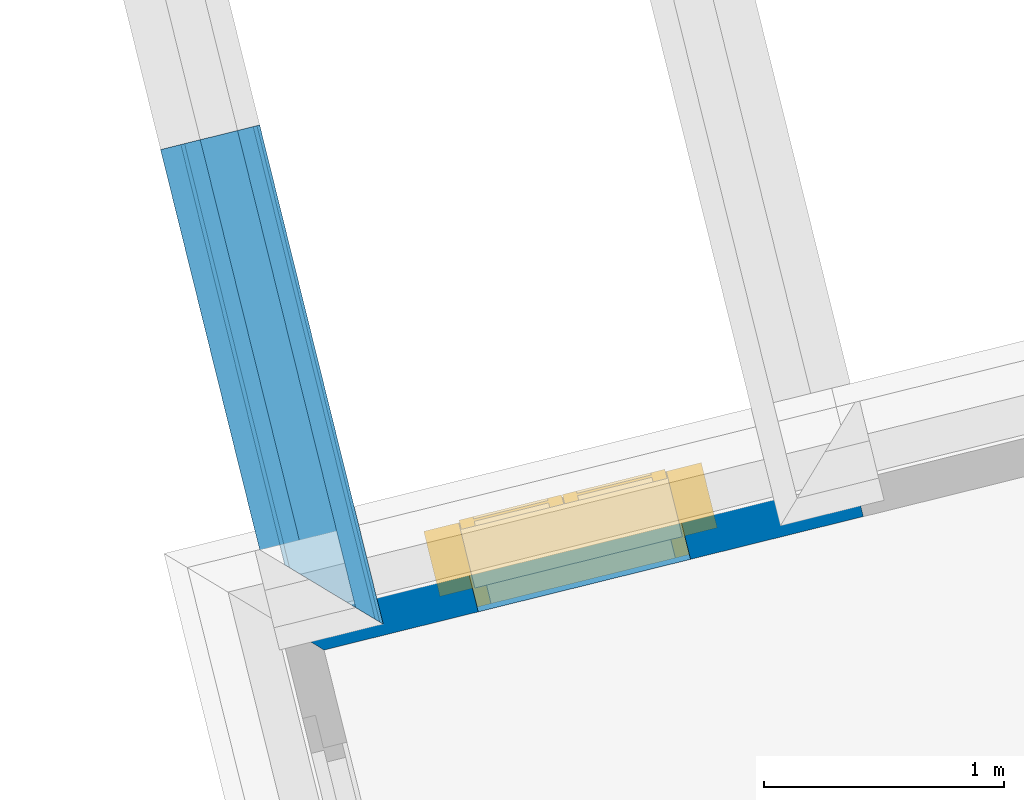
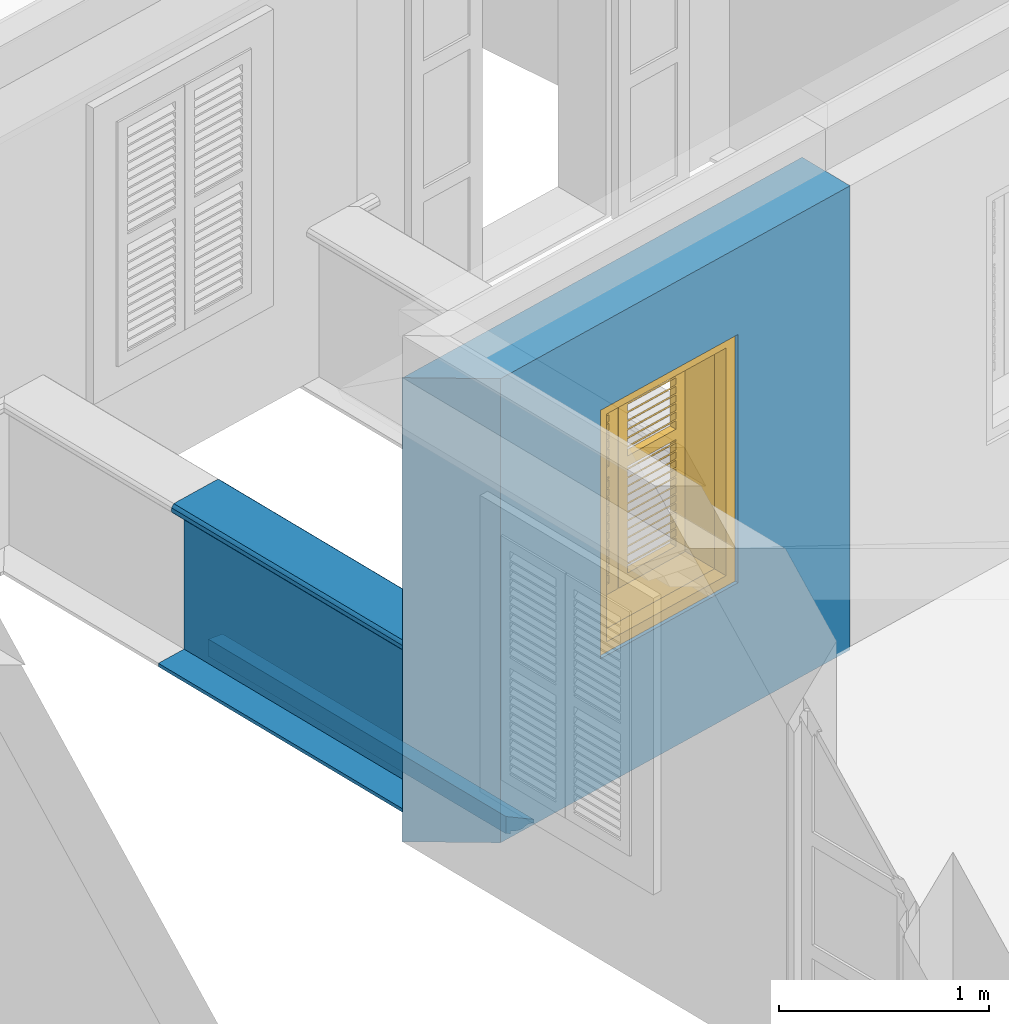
# One storey, part 4 of 15: 4 walls, 1 window, 1 opening.
"""IFC4 building model written with IfcOpenShell, lengths in metres."""

from ifc_helpers import new_model, si_unit, frame, origin, origin_with_axes, place, context, subcontext, project, spatial, polyline, outline, extrude, clip, halfspace, faceted_brep, source, transform, mapped, material, layer, layer_set, layer_usage, material_profile, profile_set, profile_usage, type_object, type_shapes, element, fill, save


model = new_model("IFC4")

# Units and contexts
model_context = context("Model", 3, world=origin_with_axes())
body_context = subcontext(model_context, "Body", "Model", "MODEL_VIEW")
ifc_project = project(units=[si_unit("PLANEANGLEUNIT", "RADIAN"), si_unit("MASSUNIT", "GRAM", prefix="KILO"), si_unit("FORCEUNIT", "NEWTON", prefix="KILO"), si_unit("LENGTHUNIT", "METRE"), si_unit("AREAUNIT", "SQUARE_METRE"), si_unit("VOLUMEUNIT", "CUBIC_METRE")], contexts=[model_context, model_context])

# Site, building, storey
site_placement = place(None, origin_with_axes())
site = spatial("IfcSite", under=ifc_project, at=site_placement, Name="Site plot-5", CompositionType="ELEMENT")
building_placement = place(None, origin_with_axes())
building = spatial("IfcBuilding", under=site, at=building_placement, Name="Building plot-5", CompositionType="ELEMENT")
storey_placement = place(None, frame((0.0, 0.0, 3.45), z_axis=(0.0, 0.0, 1.0), x_axis=(1.0, 0.0, 0.0)))
storey = spatial("IfcBuildingStorey", under=building, at=storey_placement, Name="plot-5 1", CompositionType="ELEMENT", Elevation=3.45)

# Wall, opening, window
ifc_material = material(Name="Masonry")
ifc_layer = layer(ifc_material, 0.33, ventilated=False)
ifc_layer_set = layer_set([ifc_layer], Name="exterior_0.08_0.25")
ifc_layer_usage = layer_usage(ifc_layer_set, "AXIS2", "POSITIVE", -0.25)
wall_type_1 = type_object("IfcWallType", Name="exterior_0.08_0.25", PredefinedType="SOLIDWALL", material=ifc_layer_set)
wall_1_placement = place(storey_placement, frame((21.3160786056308, 24.5601392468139, 0.0), z_axis=(0.0, 0.0, 1.0), x_axis=(-0.970711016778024, -0.240250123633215, 0.0)))
wall_1 = element("IfcWall", 1, at=wall_1_placement, inside=storey, type_object=wall_type_1, material=ifc_layer_usage, Name="exterior", context=body_context, shape_type="SweptSolid", body=[
    extrude(outline(polyline([(-2.14632396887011e-15, 0.0800000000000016), (8.11993616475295e-15, -0.249999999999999), (2.64219145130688, -0.249999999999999), (2.31219145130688, 0.0799999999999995), (-2.14632396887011e-15, 0.0800000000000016)])), origin_with_axes(), (0.0, 0.0, 1.0), 2.7),
])
opening_placement = place(wall_1_placement, frame((0.741095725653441, 0.0, 0.75)))
opening = element("IfcOpeningElement", 2, at=opening_placement, cuts=wall_1, Name="My Opening", ObjectType="Opening", context=body_context, shape_type="SweptSolid", body=[
    extrude(outline(polyline([(0.0, -0.269999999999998), (0.91, -0.269999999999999), (0.909999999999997, 1.1), (-3.33066907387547e-15, 1.1), (0.0, -0.269999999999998)])), origin_with_axes(), (0.0, 0.0, 1.0), 1.445),
])
window_type = type_object("IfcWindowType", Name="shuttered_shorter", PartitioningType="DOUBLE_PANEL_HORIZONTAL", PredefinedType="NOTDEFINED")
shared_shape = source(origin(), body_context, "Body", "Brep", [
    faceted_brep([(0.393, 0.0, 0.622), (0.074, 0.0, 0.622), (0.074, 0.0, 0.632), (0.393, 0.0, 0.632), (0.074, -0.04, 0.592), (0.393, -0.04, 0.592), (0.393, -0.04, 0.582), (0.074, -0.04, 0.582), (0.517, 0.0, 0.682), (0.836, 0.0, 0.682), (0.836, 0.0, 0.672), (0.517, 0.0, 0.672), (0.517, -0.04, 0.642), (0.836, -0.04, 0.642), (0.836, -0.04, 0.632), (0.517, -0.04, 0.632), (0.517, 0.0, 0.632), (0.836, 0.0, 0.632), (0.836, 0.0, 0.622), (0.517, 0.0, 0.622), (0.517, -0.04, 0.592), (0.836, -0.04, 0.592), (0.836, -0.04, 0.582), (0.517, -0.04, 0.582), (0.517, 0.0, 0.232), (0.836, 0.0, 0.232), (0.836, 0.0, 0.222), (0.517, 0.0, 0.222), (0.517, -0.04, 0.192), (0.836, -0.04, 0.192), (0.836, -0.04, 0.182), (0.517, -0.04, 0.182), (0.517, 0.0, 0.532), (0.836, 0.0, 0.532), (0.836, 0.0, 0.522), (0.517, 0.0, 0.522), (0.517, -0.04, 0.492), (0.836, -0.04, 0.492), (0.836, -0.04, 0.482), (0.517, -0.04, 0.482), (0.517, 0.0, 0.482), (0.836, 0.0, 0.482), (0.836, 0.0, 0.472), (0.517, 0.0, 0.472), (0.517, -0.04, 0.442), (0.836, -0.04, 0.442), (0.836, -0.04, 0.432), (0.517, -0.04, 0.432), (0.517, 0.0, 0.582), (0.836, 0.0, 0.582), (0.836, 0.0, 0.572), (0.517, 0.0, 0.572), (0.517, -0.04, 0.542), (0.836, -0.04, 0.542), (0.836, -0.04, 0.532), (0.517, -0.04, 0.532), (0.517, 0.0, 0.182), (0.836, 0.0, 0.182), (0.836, 0.0, 0.172), (0.517, 0.0, 0.172), (0.517, -0.04, 0.142), (0.836, -0.04, 0.142), (0.836, -0.04, 0.132), (0.517, -0.04, 0.132), (0.517, 0.0, 0.382), (0.836, 0.0, 0.382), (0.836, 0.0, 0.372), (0.517, 0.0, 0.372), (0.517, -0.04, 0.342), (0.836, -0.04, 0.342), (0.836, -0.04, 0.332), (0.517, -0.04, 0.332), (0.517, 0.0, 0.432), (0.836, 0.0, 0.432), (0.836, 0.0, 0.422), (0.517, 0.0, 0.422), (0.517, -0.04, 0.392), (0.836, -0.04, 0.392), (0.836, -0.04, 0.382), (0.517, -0.04, 0.382), (0.517, 0.0, 0.132), (0.836, 0.0, 0.132), (0.836, 0.0, 0.122), (0.517, 0.0, 0.122), (0.517, -0.04, 0.092), (0.836, -0.04, 0.092), (0.836, -0.04, 0.082), (0.517, -0.04, 0.082), (0.517, 0.0, 0.282), (0.836, 0.0, 0.282), (0.836, 0.0, 0.272), (0.517, 0.0, 0.272), (0.517, -0.04, 0.242), (0.836, -0.04, 0.242), (0.836, -0.04, 0.232), (0.517, -0.04, 0.232), (0.517, 0.0, 0.332), (0.836, 0.0, 0.332), (0.836, 0.0, 0.322), (0.517, 0.0, 0.322), (0.517, -0.04, 0.292), (0.836, -0.04, 0.292), (0.836, -0.04, 0.282), (0.517, -0.04, 0.282), (0.517, 0.0, 1.362667), (0.836, 0.0, 1.362667), (0.836, 0.0, 1.352667), (0.517, 0.0, 1.352667), (0.517, -0.04, 1.322667), (0.836, -0.04, 1.322667), (0.836, -0.04, 1.312667), (0.517, -0.04, 1.312667), (0.517, 0.0, 1.312667), (0.836, 0.0, 1.312667), (0.836, 0.0, 1.302667), (0.517, 0.0, 1.302667), (0.517, -0.04, 1.272667), (0.836, -0.04, 1.272667), (0.836, -0.04, 1.262667), (0.517, -0.04, 1.262667), (0.517, 0.0, 0.912667), (0.836, 0.0, 0.912667), (0.836, 0.0, 0.902667), (0.517, 0.0, 0.902667), (0.517, -0.04, 0.872667), (0.836, -0.04, 0.872667), (0.836, -0.04, 0.862667), (0.517, -0.04, 0.862667), (0.517, 0.0, 1.212667), (0.836, 0.0, 1.212667), (0.836, 0.0, 1.202667), (0.517, 0.0, 1.202667), (0.517, -0.04, 1.172667), (0.836, -0.04, 1.172667), (0.836, -0.04, 1.162667), (0.517, -0.04, 1.162667), (0.517, 0.0, 1.162667), (0.836, 0.0, 1.162667), (0.836, 0.0, 1.152667), (0.517, 0.0, 1.152667), (0.517, -0.04, 1.122667), (0.836, -0.04, 1.122667), (0.836, -0.04, 1.112667), (0.517, -0.04, 1.112667), (0.517, 0.0, 1.262667), (0.836, 0.0, 1.262667), (0.836, 0.0, 1.252667), (0.517, 0.0, 1.252667), (0.517, -0.04, 1.222667), (0.836, -0.04, 1.222667), (0.836, -0.04, 1.212667), (0.517, -0.04, 1.212667), (0.517, 0.0, 0.862667), (0.836, 0.0, 0.862667), (0.836, 0.0, 0.852667), (0.517, 0.0, 0.852667), (0.517, -0.04, 0.822667), (0.836, -0.04, 0.822667), (0.836, -0.04, 0.812667), (0.517, -0.04, 0.812667), (0.517, 0.0, 1.062667), (0.836, 0.0, 1.062667), (0.836, 0.0, 1.052667), (0.517, 0.0, 1.052667), (0.517, -0.04, 1.022667), (0.836, -0.04, 1.022667), (0.836, -0.04, 1.012667), (0.517, -0.04, 1.012667), (0.517, 0.0, 1.112667), (0.836, 0.0, 1.112667), (0.836, 0.0, 1.102667), (0.517, 0.0, 1.102667), (0.517, -0.04, 1.072667), (0.836, -0.04, 1.072667), (0.836, -0.04, 1.062667), (0.517, -0.04, 1.062667), (0.517, 0.0, 0.812667), (0.836, 0.0, 0.812667), (0.836, 0.0, 0.802667), (0.517, 0.0, 0.802667), (0.517, -0.04, 0.772667), (0.836, -0.04, 0.772667), (0.836, -0.04, 0.762667), (0.517, -0.04, 0.762667), (0.517, 0.0, 0.962667), (0.836, 0.0, 0.962667), (0.836, 0.0, 0.952667), (0.517, 0.0, 0.952667), (0.517, -0.04, 0.922667), (0.836, -0.04, 0.922667), (0.836, -0.04, 0.912667), (0.517, -0.04, 0.912667), (0.517, 0.0, 1.012667), (0.836, 0.0, 1.012667), (0.836, 0.0, 1.002667), (0.517, 0.0, 1.002667), (0.517, -0.04, 0.972667), (0.836, -0.04, 0.972667), (0.836, -0.04, 0.962667), (0.517, -0.04, 0.962667), (0.074, 0.0, 0.682), (0.393, 0.0, 0.682), (0.393, 0.0, 0.672), (0.074, 0.0, 0.672), (0.074, -0.04, 0.642), (0.393, -0.04, 0.642), (0.393, -0.04, 0.632), (0.074, -0.04, 0.632), (0.074, 0.0, 0.232), (0.393, 0.0, 0.232), (0.393, 0.0, 0.222), (0.074, 0.0, 0.222), (0.074, -0.04, 0.192), (0.393, -0.04, 0.192), (0.393, -0.04, 0.182), (0.074, -0.04, 0.182), (0.074, 0.0, 0.532), (0.393, 0.0, 0.532), (0.393, 0.0, 0.522), (0.074, 0.0, 0.522), (0.074, -0.04, 0.492), (0.393, -0.04, 0.492), (0.393, -0.04, 0.482), (0.074, -0.04, 0.482), (0.074, 0.0, 0.482), (0.393, 0.0, 0.482), (0.393, 0.0, 0.472), (0.074, 0.0, 0.472), (0.074, -0.04, 0.442), (0.393, -0.04, 0.442), (0.393, -0.04, 0.432), (0.074, -0.04, 0.432), (0.074, 0.0, 0.582), (0.393, 0.0, 0.582), (0.393, 0.0, 0.572), (0.074, 0.0, 0.572), (0.074, -0.04, 0.542), (0.393, -0.04, 0.542), (0.393, -0.04, 0.532), (0.074, -0.04, 0.532), (0.074, 0.0, 0.182), (0.393, 0.0, 0.182), (0.393, 0.0, 0.172), (0.074, 0.0, 0.172), (0.074, -0.04, 0.142), (0.393, -0.04, 0.142), (0.393, -0.04, 0.132), (0.074, -0.04, 0.132), (0.074, 0.0, 0.382), (0.393, 0.0, 0.382), (0.393, 0.0, 0.372), (0.074, 0.0, 0.372), (0.074, -0.04, 0.342), (0.393, -0.04, 0.342), (0.393, -0.04, 0.332), (0.074, -0.04, 0.332), (0.074, 0.0, 0.432), (0.393, 0.0, 0.432), (0.393, 0.0, 0.422), (0.074, 0.0, 0.422), (0.074, -0.04, 0.392), (0.393, -0.04, 0.392), (0.393, -0.04, 0.382), (0.074, -0.04, 0.382), (0.074, 0.0, 0.132), (0.393, 0.0, 0.132), (0.393, 0.0, 0.122), (0.074, 0.0, 0.122), (0.074, -0.04, 0.092), (0.393, -0.04, 0.092), (0.393, -0.04, 0.082), (0.074, -0.04, 0.082), (0.074, 0.0, 0.282), (0.393, 0.0, 0.282), (0.393, 0.0, 0.272), (0.074, 0.0, 0.272), (0.074, -0.04, 0.242), (0.393, -0.04, 0.242), (0.393, -0.04, 0.232), (0.074, -0.04, 0.232), (0.074, 0.0, 0.332), (0.393, 0.0, 0.332), (0.393, 0.0, 0.322), (0.074, 0.0, 0.322), (0.074, -0.04, 0.292), (0.393, -0.04, 0.292), (0.393, -0.04, 0.282), (0.074, -0.04, 0.282), (0.074, 0.0, 1.362667), (0.393, 0.0, 1.362667), (0.393, 0.0, 1.352667), (0.074, 0.0, 1.352667), (0.074, -0.04, 1.322667), (0.393, -0.04, 1.322667), (0.393, -0.04, 1.312667), (0.074, -0.04, 1.312667), (0.074, 0.0, 1.312667), (0.393, 0.0, 1.312667), (0.393, 0.0, 1.302667), (0.074, 0.0, 1.302667), (0.074, -0.04, 1.272667), (0.393, -0.04, 1.272667), (0.393, -0.04, 1.262667), (0.074, -0.04, 1.262667), (0.074, 0.0, 0.912667), (0.393, 0.0, 0.912667), (0.393, 0.0, 0.902667), (0.074, 0.0, 0.902667), (0.074, -0.04, 0.872667), (0.393, -0.04, 0.872667), (0.393, -0.04, 0.862667), (0.074, -0.04, 0.862667), (0.074, 0.0, 1.212667), (0.393, 0.0, 1.212667), (0.393, 0.0, 1.202667), (0.074, 0.0, 1.202667), (0.074, -0.04, 1.172667), (0.393, -0.04, 1.172667), (0.393, -0.04, 1.162667), (0.074, -0.04, 1.162667), (0.074, 0.0, 1.162667), (0.393, 0.0, 1.162667), (0.393, 0.0, 1.152667), (0.074, 0.0, 1.152667), (0.074, -0.04, 1.122667), (0.393, -0.04, 1.122667), (0.393, -0.04, 1.112667), (0.074, -0.04, 1.112667), (0.074, 0.0, 1.262667), (0.393, 0.0, 1.262667), (0.393, 0.0, 1.252667), (0.074, 0.0, 1.252667), (0.074, -0.04, 1.222667), (0.393, -0.04, 1.222667), (0.393, -0.04, 1.212667), (0.074, -0.04, 1.212667), (0.074, 0.0, 0.862667), (0.393, 0.0, 0.862667), (0.393, 0.0, 0.852667), (0.074, 0.0, 0.852667), (0.074, -0.04, 0.822667), (0.393, -0.04, 0.822667), (0.393, -0.04, 0.812667), (0.074, -0.04, 0.812667), (0.074, 0.0, 1.062667), (0.393, 0.0, 1.062667), (0.393, 0.0, 1.052667), (0.074, 0.0, 1.052667), (0.074, -0.04, 1.022667), (0.393, -0.04, 1.022667), (0.393, -0.04, 1.012667), (0.074, -0.04, 1.012667), (0.074, 0.0, 1.112667), (0.393, 0.0, 1.112667), (0.393, 0.0, 1.102667), (0.074, 0.0, 1.102667), (0.074, -0.04, 1.072667), (0.393, -0.04, 1.072667), (0.393, -0.04, 1.062667), (0.074, -0.04, 1.062667), (0.074, 0.0, 0.812667), (0.393, 0.0, 0.812667), (0.393, 0.0, 0.802667), (0.074, 0.0, 0.802667), (0.074, -0.04, 0.772667), (0.393, -0.04, 0.772667), (0.393, -0.04, 0.762667), (0.074, -0.04, 0.762667), (0.074, 0.0, 0.962667), (0.393, 0.0, 0.962667), (0.393, 0.0, 0.952667), (0.074, 0.0, 0.952667), (0.074, -0.04, 0.922667), (0.393, -0.04, 0.922667), (0.393, -0.04, 0.912667), (0.074, -0.04, 0.912667), (0.074, 0.0, 1.012667), (0.393, 0.0, 1.012667), (0.393, 0.0, 1.002667), (0.074, 0.0, 1.002667), (0.074, -0.04, 0.972667), (0.393, -0.04, 0.972667), (0.393, -0.04, 0.962667), (0.074, -0.04, 0.962667), (0.517, -0.04, 0.072), (0.457, -0.04, 0.012), (0.896, -0.04, 0.012), (0.836, -0.04, 0.072), (0.457, -0.04, 0.692667), (0.517, -0.04, 0.692667), (0.457, 0.0, 0.012), (0.896, 0.0, 0.012), (0.836, -0.04, 0.692667), (0.896, -0.04, 0.692667), (0.836, 0.0, 0.072), (0.517, 0.0, 0.072), (0.457, 0.0, 0.692667), (0.517, 0.0, 0.692667), (0.517, -0.04, 0.752666), (0.457, -0.04, 0.752666), (0.896, 0.0, 0.692667), (0.836, 0.0, 0.692667), (0.836, -0.04, 0.752666), (0.896, -0.04, 0.752666), (0.457, 0.0, 0.752666), (0.457, -0.04, 1.433333), (0.517, -0.04, 1.373333), (0.896, 0.0, 0.752666), (0.836, -0.04, 1.373333), (0.896, -0.04, 1.433333), (0.457, 0.0, 1.433333), (0.517, 0.0, 0.752666), (0.836, 0.0, 0.752666), (0.517, 0.0, 1.373333), (0.896, 0.0, 1.433333), (0.836, 0.0, 1.373333), (0.074, -0.04, 0.072), (0.014, -0.04, 0.012), (0.453, -0.04, 0.012), (0.393, -0.04, 0.072), (0.014, -0.04, 0.692667), (0.074, -0.04, 0.692667), (0.014, 0.0, 0.012), (0.453, 0.0, 0.012), (0.393, -0.04, 0.692667), (0.453, -0.04, 0.692667), (0.393, 0.0, 0.072), (0.074, 0.0, 0.072), (0.014, 0.0, 0.692667), (0.074, 0.0, 0.692667), (0.074, -0.04, 0.752666), (0.014, -0.04, 0.752666), (0.453, 0.0, 0.692667), (0.393, 0.0, 0.692667), (0.393, -0.04, 0.752666), (0.453, -0.04, 0.752666), (0.014, 0.0, 0.752666), (0.014, -0.04, 1.433333), (0.074, -0.04, 1.373333), (0.453, 0.0, 0.752666), (0.393, -0.04, 1.373333), (0.453, -0.04, 1.433333), (0.014, 0.0, 1.433333), (0.074, 0.0, 0.752666), (0.393, 0.0, 0.752666), (0.074, 0.0, 1.373333), (0.453, 0.0, 1.433333), (0.393, 0.0, 1.373333), (0.0, 0.33, 1.445), (0.91, 0.33, 1.445), (0.85, 0.33, 1.385), (0.06, 0.33, 1.385), (0.91, 0.25, 1.445), (0.0, 0.25, 1.445), (0.91, 0.25, 1.445), (0.85, 0.33, 0.06), (0.91, 0.33, 0.0), (0.85, 0.25, 1.385), (0.06, 0.25, 1.385), (0.0, 0.33, 0.0), (0.06, 0.33, 0.06), (0.0, 0.25, 0.0), (0.91, 0.25, 0.0), (0.85, 0.25, 0.06), (0.06, 0.25, 0.06), (1.05, 0.25, 1.585), (-0.14, 0.25, 1.585), (-0.14, -0.03, 1.585), (1.05, -0.03, 1.585), (0.9, -0.03, 1.435), (0.01, -0.03, 1.435), (0.01, 0.25, 1.435), (0.9, 0.25, 1.435), (0.9, 0.25, 0.01), (0.9, -0.03, 0.01), (1.05, -0.03, -0.14), (1.05, 0.25, -0.14), (0.01, -0.03, 0.01), (0.01, 0.25, 0.01), (-0.14, -0.03, -0.14), (-0.14, 0.25, -0.14)], [[[0, 1, 2, 3]], [[4, 5, 3, 2]], [[5, 6, 0, 3]], [[1, 0, 6, 7]], [[2, 1, 7, 4]], [[5, 4, 7, 6]], [[8, 9, 10, 11]], [[12, 13, 9, 8]], [[13, 14, 10, 9]], [[14, 15, 11, 10]], [[15, 12, 8, 11]], [[13, 12, 15, 14]], [[16, 17, 18, 19]], [[20, 21, 17, 16]], [[21, 22, 18, 17]], [[22, 23, 19, 18]], [[23, 20, 16, 19]], [[21, 20, 23, 22]], [[24, 25, 26, 27]], [[28, 29, 25, 24]], [[29, 30, 26, 25]], [[30, 31, 27, 26]], [[31, 28, 24, 27]], [[29, 28, 31, 30]], [[32, 33, 34, 35]], [[36, 37, 33, 32]], [[37, 38, 34, 33]], [[38, 39, 35, 34]], [[39, 36, 32, 35]], [[37, 36, 39, 38]], [[40, 41, 42, 43]], [[44, 45, 41, 40]], [[45, 46, 42, 41]], [[46, 47, 43, 42]], [[47, 44, 40, 43]], [[45, 44, 47, 46]], [[48, 49, 50, 51]], [[52, 53, 49, 48]], [[53, 54, 50, 49]], [[54, 55, 51, 50]], [[55, 52, 48, 51]], [[53, 52, 55, 54]], [[56, 57, 58, 59]], [[60, 61, 57, 56]], [[61, 62, 58, 57]], [[62, 63, 59, 58]], [[63, 60, 56, 59]], [[61, 60, 63, 62]], [[64, 65, 66, 67]], [[68, 69, 65, 64]], [[69, 70, 66, 65]], [[70, 71, 67, 66]], [[71, 68, 64, 67]], [[69, 68, 71, 70]], [[72, 73, 74, 75]], [[76, 77, 73, 72]], [[77, 78, 74, 73]], [[78, 79, 75, 74]], [[79, 76, 72, 75]], [[77, 76, 79, 78]], [[80, 81, 82, 83]], [[84, 85, 81, 80]], [[85, 86, 82, 81]], [[86, 87, 83, 82]], [[87, 84, 80, 83]], [[85, 84, 87, 86]], [[88, 89, 90, 91]], [[92, 93, 89, 88]], [[93, 94, 90, 89]], [[94, 95, 91, 90]], [[95, 92, 88, 91]], [[93, 92, 95, 94]], [[96, 97, 98, 99]], [[100, 101, 97, 96]], [[101, 102, 98, 97]], [[102, 103, 99, 98]], [[103, 100, 96, 99]], [[101, 100, 103, 102]], [[104, 105, 106, 107]], [[108, 109, 105, 104]], [[109, 110, 106, 105]], [[110, 111, 107, 106]], [[111, 108, 104, 107]], [[109, 108, 111, 110]], [[112, 113, 114, 115]], [[116, 117, 113, 112]], [[117, 118, 114, 113]], [[118, 119, 115, 114]], [[119, 116, 112, 115]], [[117, 116, 119, 118]], [[120, 121, 122, 123]], [[124, 125, 121, 120]], [[125, 126, 122, 121]], [[126, 127, 123, 122]], [[127, 124, 120, 123]], [[125, 124, 127, 126]], [[128, 129, 130, 131]], [[132, 133, 129, 128]], [[133, 134, 130, 129]], [[134, 135, 131, 130]], [[135, 132, 128, 131]], [[133, 132, 135, 134]], [[136, 137, 138, 139]], [[140, 141, 137, 136]], [[141, 142, 138, 137]], [[142, 143, 139, 138]], [[139, 143, 140, 136]], [[141, 140, 143, 142]], [[144, 145, 146, 147]], [[148, 149, 145, 144]], [[149, 150, 146, 145]], [[150, 151, 147, 146]], [[151, 148, 144, 147]], [[149, 148, 151, 150]], [[152, 153, 154, 155]], [[156, 157, 153, 152]], [[157, 158, 154, 153]], [[158, 159, 155, 154]], [[159, 156, 152, 155]], [[157, 156, 159, 158]], [[160, 161, 162, 163]], [[164, 165, 161, 160]], [[165, 166, 162, 161]], [[166, 167, 163, 162]], [[167, 164, 160, 163]], [[165, 164, 167, 166]], [[168, 169, 170, 171]], [[172, 173, 169, 168]], [[173, 174, 170, 169]], [[174, 175, 171, 170]], [[175, 172, 168, 171]], [[173, 172, 175, 174]], [[176, 177, 178, 179]], [[180, 181, 177, 176]], [[181, 182, 178, 177]], [[182, 183, 179, 178]], [[183, 180, 176, 179]], [[181, 180, 183, 182]], [[184, 185, 186, 187]], [[188, 189, 185, 184]], [[189, 190, 186, 185]], [[190, 191, 187, 186]], [[191, 188, 184, 187]], [[189, 188, 191, 190]], [[192, 193, 194, 195]], [[196, 197, 193, 192]], [[197, 198, 194, 193]], [[198, 199, 195, 194]], [[199, 196, 192, 195]], [[197, 196, 199, 198]], [[200, 201, 202, 203]], [[204, 205, 201, 200]], [[205, 206, 202, 201]], [[206, 207, 203, 202]], [[207, 204, 200, 203]], [[205, 204, 207, 206]], [[208, 209, 210, 211]], [[212, 213, 209, 208]], [[213, 214, 210, 209]], [[214, 215, 211, 210]], [[215, 212, 208, 211]], [[213, 212, 215, 214]], [[216, 217, 218, 219]], [[220, 221, 217, 216]], [[221, 222, 218, 217]], [[222, 223, 219, 218]], [[223, 220, 216, 219]], [[221, 220, 223, 222]], [[224, 225, 226, 227]], [[228, 229, 225, 224]], [[229, 230, 226, 225]], [[230, 231, 227, 226]], [[231, 228, 224, 227]], [[229, 228, 231, 230]], [[232, 233, 234, 235]], [[236, 237, 233, 232]], [[237, 238, 234, 233]], [[238, 239, 235, 234]], [[239, 236, 232, 235]], [[237, 236, 239, 238]], [[240, 241, 242, 243]], [[244, 245, 241, 240]], [[245, 246, 242, 241]], [[246, 247, 243, 242]], [[247, 244, 240, 243]], [[245, 244, 247, 246]], [[248, 249, 250, 251]], [[252, 253, 249, 248]], [[253, 254, 250, 249]], [[254, 255, 251, 250]], [[255, 252, 248, 251]], [[253, 252, 255, 254]], [[256, 257, 258, 259]], [[260, 261, 257, 256]], [[261, 262, 258, 257]], [[262, 263, 259, 258]], [[263, 260, 256, 259]], [[261, 260, 263, 262]], [[264, 265, 266, 267]], [[268, 269, 265, 264]], [[269, 270, 266, 265]], [[270, 271, 267, 266]], [[271, 268, 264, 267]], [[269, 268, 271, 270]], [[272, 273, 274, 275]], [[276, 277, 273, 272]], [[277, 278, 274, 273]], [[278, 279, 275, 274]], [[279, 276, 272, 275]], [[277, 276, 279, 278]], [[280, 281, 282, 283]], [[284, 285, 281, 280]], [[285, 286, 282, 281]], [[286, 287, 283, 282]], [[287, 284, 280, 283]], [[285, 284, 287, 286]], [[288, 289, 290, 291]], [[292, 293, 289, 288]], [[293, 294, 290, 289]], [[294, 295, 291, 290]], [[295, 292, 288, 291]], [[293, 292, 295, 294]], [[296, 297, 298, 299]], [[300, 301, 297, 296]], [[301, 302, 298, 297]], [[302, 303, 299, 298]], [[303, 300, 296, 299]], [[301, 300, 303, 302]], [[304, 305, 306, 307]], [[308, 309, 305, 304]], [[309, 310, 306, 305]], [[310, 311, 307, 306]], [[311, 308, 304, 307]], [[309, 308, 311, 310]], [[312, 313, 314, 315]], [[316, 317, 313, 312]], [[317, 318, 314, 313]], [[318, 319, 315, 314]], [[319, 316, 312, 315]], [[317, 316, 319, 318]], [[320, 321, 322, 323]], [[324, 325, 321, 320]], [[325, 326, 322, 321]], [[326, 327, 323, 322]], [[327, 324, 320, 323]], [[325, 324, 327, 326]], [[328, 329, 330, 331]], [[332, 333, 329, 328]], [[333, 334, 330, 329]], [[334, 335, 331, 330]], [[335, 332, 328, 331]], [[333, 332, 335, 334]], [[336, 337, 338, 339]], [[340, 341, 337, 336]], [[341, 342, 338, 337]], [[342, 343, 339, 338]], [[343, 340, 336, 339]], [[341, 340, 343, 342]], [[344, 345, 346, 347]], [[348, 349, 345, 344]], [[349, 350, 346, 345]], [[350, 351, 347, 346]], [[351, 348, 344, 347]], [[349, 348, 351, 350]], [[352, 353, 354, 355]], [[356, 357, 353, 352]], [[357, 358, 354, 353]], [[358, 359, 355, 354]], [[359, 356, 352, 355]], [[357, 356, 359, 358]], [[360, 361, 362, 363]], [[364, 365, 361, 360]], [[365, 366, 362, 361]], [[366, 367, 363, 362]], [[367, 364, 360, 363]], [[365, 364, 367, 366]], [[368, 369, 370, 371]], [[372, 373, 369, 368]], [[373, 374, 370, 369]], [[374, 375, 371, 370]], [[375, 372, 368, 371]], [[373, 372, 375, 374]], [[376, 377, 378, 379]], [[380, 381, 377, 376]], [[381, 382, 378, 377]], [[382, 383, 379, 378]], [[383, 380, 376, 379]], [[381, 380, 383, 382]], [[384, 385, 386, 387]], [[388, 385, 384, 389]], [[390, 391, 386, 385]], [[392, 387, 386, 393]], [[384, 387, 394, 395]], [[390, 385, 388, 396]], [[389, 384, 395, 397]], [[389, 398, 399, 388]], [[390, 395, 394, 391]], [[400, 393, 386, 391]], [[387, 392, 401, 394]], [[402, 392, 393, 403]], [[396, 388, 399, 404]], [[390, 396, 397, 395]], [[392, 389, 397, 401]], [[398, 389, 392, 402]], [[405, 399, 398, 406]], [[394, 401, 400, 391]], [[407, 403, 393, 400]], [[408, 402, 403, 409]], [[404, 399, 405, 410]], [[411, 397, 396, 404]], [[397, 411, 412, 401]], [[398, 402, 412, 411]], [[406, 398, 411, 413]], [[405, 406, 408, 409]], [[401, 412, 407, 400]], [[414, 409, 403, 407]], [[402, 408, 415, 412]], [[405, 409, 414, 410]], [[404, 410, 413, 411]], [[408, 406, 413, 415]], [[412, 415, 414, 407]], [[413, 410, 414, 415]], [[416, 417, 418, 419]], [[420, 417, 416, 421]], [[422, 423, 418, 417]], [[424, 419, 418, 425]], [[416, 419, 426, 427]], [[422, 417, 420, 428]], [[421, 416, 427, 429]], [[421, 430, 431, 420]], [[422, 427, 426, 423]], [[432, 425, 418, 423]], [[419, 424, 433, 426]], [[434, 424, 425, 435]], [[428, 420, 431, 436]], [[422, 428, 429, 427]], [[424, 421, 429, 433]], [[430, 421, 424, 434]], [[437, 431, 430, 438]], [[426, 433, 432, 423]], [[439, 435, 425, 432]], [[440, 434, 435, 441]], [[436, 431, 437, 442]], [[443, 429, 428, 436]], [[429, 443, 444, 433]], [[430, 434, 444, 443]], [[438, 430, 443, 445]], [[437, 438, 440, 441]], [[433, 444, 439, 432]], [[446, 441, 435, 439]], [[434, 440, 447, 444]], [[437, 441, 446, 442]], [[436, 442, 445, 443]], [[440, 438, 445, 447]], [[444, 447, 446, 439]], [[445, 442, 446, 447]], [[448, 449, 450, 451]], [[452, 449, 448]], [[448, 453, 454]], [[448, 454, 452]], [[455, 450, 449, 456]], [[451, 450, 457, 458]], [[459, 448, 451, 460]], [[448, 459, 461, 453]], [[454, 453, 458, 457]], [[462, 452, 454]], [[454, 457, 463]], [[454, 463, 462]], [[456, 449, 452, 462]], [[450, 455, 463, 457]], [[456, 459, 460, 455]], [[460, 451, 458, 464]], [[459, 456, 462, 461]], [[464, 458, 453, 461]], [[461, 462, 463, 464]], [[455, 460, 464, 463]], [[465, 466, 467, 468]], [[469, 470, 471, 472]], [[473, 474, 469, 472]], [[465, 468, 475, 476]], [[470, 477, 478, 471]], [[474, 473, 478, 477]], [[474, 477, 479, 475]], [[470, 467, 479, 477]], [[470, 469, 468, 467]], [[474, 475, 468, 469]], [[471, 478, 480, 466]], [[473, 472, 465, 476]], [[473, 476, 480, 478]], [[466, 465, 472, 471]], [[480, 476, 475, 479]], [[480, 479, 467, 466]]]),
])
type_shapes(window_type, [shared_shape])
window_placement = place(storey_placement, frame((20.5318212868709, 24.6441828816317, 0.75), z_axis=(0.0, 0.0, 1.0), x_axis=(-0.883347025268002, -0.218627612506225, 0.0)))
window = element("IfcWindow", 3, at=window_placement, inside=storey, type_object=window_type, Name="bedroom outside window", OverallHeight=1.445, OverallWidth=0.91, context=body_context, shape_type="MappedRepresentation", body=[
    mapped(shared_shape, transform((0.0, 0.0, 0.0), scale=1.0)),
])
fill(opening, window)

# Walls
ifc_material_profile_1 = material_profile(None, outline(polyline([(0.25, 0.0), (0.25, 0.795), (0.09, 0.795), (0.09, 0.02), (-0.08, 0.02), (-0.08, 0.0), (0.25, 0.0)])))
ifc_profile_set_1 = profile_set([ifc_material_profile_1])
ifc_profile_usage_1 = profile_usage(ifc_profile_set_1)
wall_type_2 = type_object("IfcWallType", Name="parapet internal_0", PredefinedType="PARAPET", material=ifc_profile_set_1)
wall_2_placement = place(storey_placement, frame((18.2479331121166, 26.9996434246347, 0.0), z_axis=(0.240250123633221, -0.970711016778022, 0.0), x_axis=(0.970711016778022, 0.240250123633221, 0.0)))
element("IfcWall", 4, at=wall_2_placement, inside=storey, type_object=wall_type_2, material=ifc_profile_usage_1, Name="parapet internal_0", context=body_context, shape_type="Clipping", body=[
    clip(clip(extrude(outline(polyline([(0.25, 0.0), (0.25, 0.795), (0.09, 0.795), (0.09, 0.02), (-0.08, 0.02), (-0.08, 0.0), (0.25, 0.0)])), origin_with_axes(), (0.0, 0.0, 1.0), 3.79517591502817), halfspace(frame((0.0, 0.0, 2.79517591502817), z_axis=(0.707106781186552, 0.0, -0.707106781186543), x_axis=(0.0, 1.0, 0.0)), True)), halfspace(frame((0.0, 0.0, 1.0), z_axis=(6.04901474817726e-16, 0.0, -1.0), x_axis=(0.0, 1.0, 0.0)), False)),
])
ifc_material_profile_2 = material_profile(None, outline(polyline([(0.265, 0.795), (0.268, 0.807), (0.274, 0.816), (0.283, 0.822), (0.295, 0.825), (0.295, 0.84), (0.305, 0.84), (0.317, 0.842), (0.326, 0.849), (0.333, 0.858), (0.335, 0.87), (0.333, 0.882), (0.326, 0.891), (0.317, 0.898), (0.305, 0.9), (0.035, 0.9), (0.023, 0.898), (0.014, 0.891), (0.007, 0.882), (0.005, 0.87), (0.007, 0.858), (0.014, 0.849), (0.023, 0.842), (0.035, 0.84), (0.045, 0.84), (0.045, 0.825), (0.057, 0.822), (0.066, 0.816), (0.072, 0.807), (0.075, 0.795), (0.265, 0.795)])))
ifc_profile_set_2 = profile_set([ifc_material_profile_2])
ifc_profile_usage_2 = profile_usage(ifc_profile_set_2)
wall_type_3 = type_object("IfcWallType", Name="parapet internal_1", PredefinedType="PARAPET", material=ifc_profile_set_2)
wall_3_placement = place(storey_placement, frame((18.2479331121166, 26.9996434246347, 0.0), z_axis=(0.240250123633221, -0.970711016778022, 0.0), x_axis=(0.970711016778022, 0.240250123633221, 0.0)))
element("IfcWall", 5, at=wall_3_placement, inside=storey, type_object=wall_type_3, material=ifc_profile_usage_2, Name="parapet internal_1", context=body_context, shape_type="Clipping", body=[
    clip(clip(extrude(outline(polyline([(0.265, 0.795), (0.268, 0.807), (0.274, 0.816), (0.283, 0.822), (0.295, 0.825), (0.295, 0.84), (0.305, 0.84), (0.317, 0.842), (0.326, 0.849), (0.333, 0.858), (0.335, 0.87), (0.333, 0.882), (0.326, 0.891), (0.317, 0.898), (0.305, 0.9), (0.035, 0.9), (0.023, 0.898), (0.014, 0.891), (0.007, 0.882), (0.005, 0.87), (0.007, 0.858), (0.014, 0.849), (0.023, 0.842), (0.035, 0.84), (0.045, 0.84), (0.045, 0.825), (0.057, 0.822), (0.066, 0.816), (0.072, 0.807), (0.075, 0.795), (0.265, 0.795)])), origin_with_axes(), (0.0, 0.0, 1.0), 3.79517591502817), halfspace(frame((0.0, 0.0, 2.79517591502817), z_axis=(0.707106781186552, 0.0, -0.707106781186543), x_axis=(0.0, 1.0, 0.0)), True)), halfspace(frame((0.0, 0.0, 1.0), z_axis=(6.04901474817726e-16, 0.0, -1.0), x_axis=(0.0, 1.0, 0.0)), False)),
])
ifc_material_profile_3 = material_profile(None, outline(polyline([(0.25, -0.1), (0.265, -0.1), (0.265, -0.085), (0.278, -0.084), (0.289, -0.081), (0.301, -0.074), (0.309, -0.065), (0.315, -0.055), (0.324, -0.044), (0.334, -0.038), (0.345, -0.035), (0.345, -0.015), (0.25, 0.0), (0.25, -0.1)])))
ifc_profile_set_3 = profile_set([ifc_material_profile_3])
ifc_profile_usage_3 = profile_usage(ifc_profile_set_3)
wall_type_4 = type_object("IfcWallType", Name="parapet internal_2", PredefinedType="PARAPET", material=ifc_profile_set_3)
wall_4_placement = place(storey_placement, frame((18.2479331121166, 26.9996434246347, 0.0), z_axis=(0.240250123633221, -0.970711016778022, 0.0), x_axis=(0.970711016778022, 0.240250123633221, 0.0)))
element("IfcWall", 6, at=wall_4_placement, inside=storey, type_object=wall_type_4, material=ifc_profile_usage_3, Name="parapet internal_2", context=body_context, shape_type="Clipping", body=[
    clip(clip(extrude(outline(polyline([(0.25, -0.1), (0.265, -0.1), (0.265, -0.085), (0.278, -0.084), (0.289, -0.081), (0.301, -0.074), (0.309, -0.065), (0.315, -0.055), (0.324, -0.044), (0.334, -0.038), (0.345, -0.035), (0.345, -0.015), (0.25, 0.0), (0.25, -0.1)])), origin_with_axes(), (0.0, 0.0, 1.0), 3.79517591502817), halfspace(frame((0.0, 0.0, 2.79517591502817), z_axis=(0.707106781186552, 0.0, -0.707106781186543), x_axis=(0.0, 1.0, 0.0)), True)), halfspace(frame((0.0, 0.0, 1.0), z_axis=(6.04901474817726e-16, 0.0, -1.0), x_axis=(0.0, 1.0, 0.0)), False)),
])

save(model, "model.ifc")
